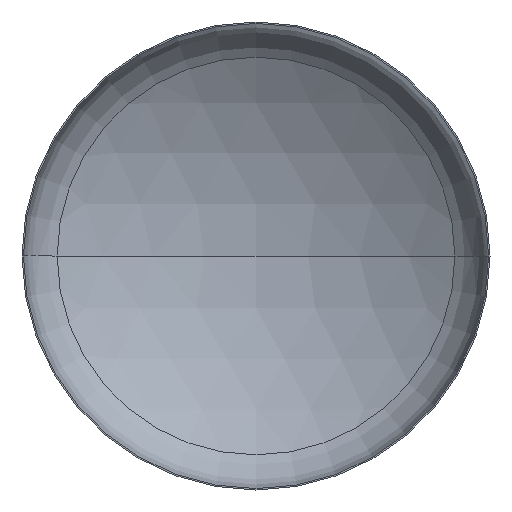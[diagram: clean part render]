
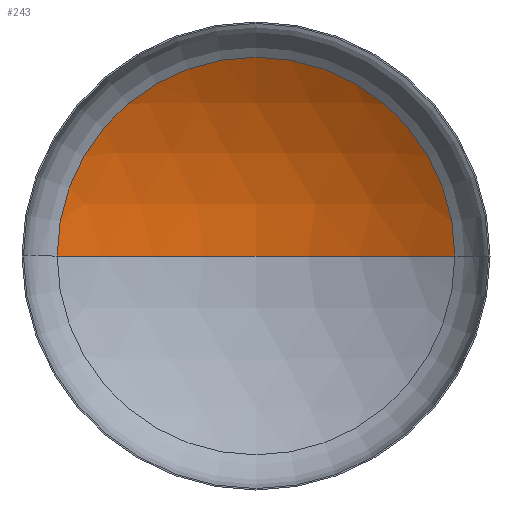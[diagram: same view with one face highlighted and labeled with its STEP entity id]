
A CAD part, front view. The second image highlights one B-rep face of the part: STEP entity #243.
In plain terms, the highlighted spherical face has radius 3200 mm.
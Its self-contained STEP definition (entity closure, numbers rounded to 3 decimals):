
#5 = AXIS2_PLACEMENT_3D ( 'NONE', #174, #354, #210 ) ;
#24 = VERTEX_POINT ( 'NONE', #221 ) ;
#45 = AXIS2_PLACEMENT_3D ( 'NONE', #125, #374, #162 ) ;
#64 = DIRECTION ( 'NONE',  ( 0., 0., -1. ) ) ;
#76 = VERTEX_POINT ( 'NONE', #395 ) ;
#85 = ORIENTED_EDGE ( 'NONE', *, *, #366, .T. ) ;
#125 = CARTESIAN_POINT ( 'NONE',  ( 0., -2150.227, 0. ) ) ;
#162 = DIRECTION ( 'NONE',  ( -1., 0., 0. ) ) ;
#164 = EDGE_LOOP ( 'NONE', ( #194, #85, #380 ) ) ;
#174 = CARTESIAN_POINT ( 'NONE',  ( 0., 561.079, 0. ) ) ;
#194 = ORIENTED_EDGE ( 'NONE', *, *, #389, .F. ) ;
#200 = CARTESIAN_POINT ( 'NONE',  ( 0., 1049.773, 0. ) ) ;
#210 = DIRECTION ( 'NONE',  ( 1., 0., 0. ) ) ;
#221 = CARTESIAN_POINT ( 'NONE',  ( 1699.652, 561.079, 0. ) ) ;
#229 = CIRCLE ( 'NONE', #330, 3200. ) ;
#235 = DIRECTION ( 'NONE',  ( 0., 0., 1. ) ) ;
#237 = CIRCLE ( 'NONE', #5, 1699.652 ) ;
#243 = ADVANCED_FACE ( 'NONE', ( #331 ), #398, .F. ) ;
#250 = VERTEX_POINT ( 'NONE', #200 ) ;
#256 = CARTESIAN_POINT ( 'NONE',  ( 0., -2150.227, 0. ) ) ;
#281 = DIRECTION ( 'NONE',  ( -1., 0., 0. ) ) ;
#330 = AXIS2_PLACEMENT_3D ( 'NONE', #256, #64, #281 ) ;
#331 = FACE_OUTER_BOUND ( 'NONE', #164, .T. ) ;
#339 = EDGE_CURVE ( 'NONE', #24, #76, #237, .T. ) ;
#350 = CIRCLE ( 'NONE', #377, 3200. ) ;
#354 = DIRECTION ( 'NONE',  ( 0., -1., 0. ) ) ;
#366 = EDGE_CURVE ( 'NONE', #250, #24, #229, .T. ) ;
#374 = DIRECTION ( 'NONE',  ( 0., 0., -1. ) ) ;
#377 = AXIS2_PLACEMENT_3D ( 'NONE', #384, #235, #405 ) ;
#380 = ORIENTED_EDGE ( 'NONE', *, *, #339, .T. ) ;
#384 = CARTESIAN_POINT ( 'NONE',  ( 0., -2150.227, 0. ) ) ;
#389 = EDGE_CURVE ( 'NONE', #250, #76, #350, .T. ) ;
#395 = CARTESIAN_POINT ( 'NONE',  ( -1699.652, 561.079, 0. ) ) ;
#398 = SPHERICAL_SURFACE ( 'NONE', #45, 3200. ) ;
#405 = DIRECTION ( 'NONE',  ( 1., 0., 0. ) ) ;
